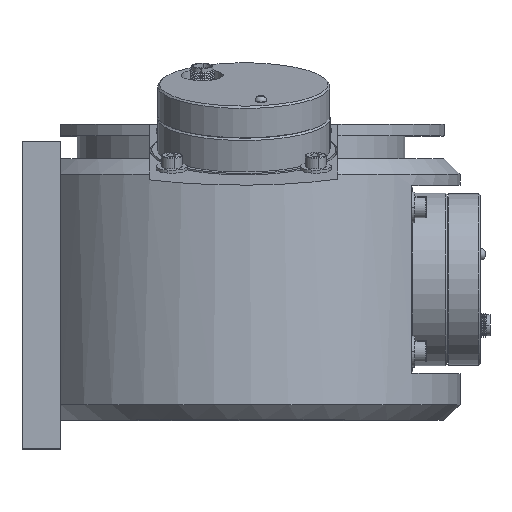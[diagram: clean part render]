
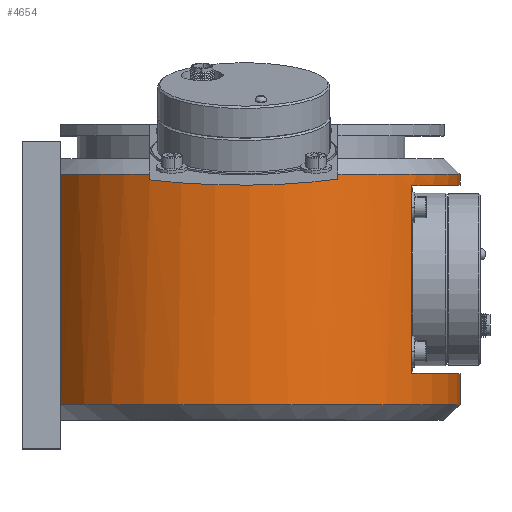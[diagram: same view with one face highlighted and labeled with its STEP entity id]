
A CAD part, top view. The second image highlights one B-rep face of the part: STEP entity #4654.
In plain terms, the highlighted cylindrical face has radius 57 mm (diameter 114 mm), a partial arc.
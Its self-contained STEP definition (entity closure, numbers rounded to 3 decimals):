
#4654 = ADVANCED_FACE ( 'NONE', ( #13632, #13634 ), #13633, .T. ) ;
#4766 = EDGE_CURVE ( 'NONE', #4984, #4985, #11962, .T. ) ;
#4795 = EDGE_CURVE ( 'NONE', #4978, #5001, #14518, .T. ) ;
#4798 = EDGE_CURVE ( 'NONE', #5004, #4985, #14550, .T. ) ;
#4978 = VERTEX_POINT ( 'NONE', #14806 ) ;
#4984 = VERTEX_POINT ( 'NONE', #14812 ) ;
#4985 = VERTEX_POINT ( 'NONE', #14813 ) ;
#5001 = VERTEX_POINT ( 'NONE', #14829 ) ;
#5003 = VERTEX_POINT ( 'NONE', #14831 ) ;
#5004 = VERTEX_POINT ( 'NONE', #14832 ) ;
#5020 = VERTEX_POINT ( 'NONE', #14848 ) ;
#5022 = VERTEX_POINT ( 'NONE', #14850 ) ;
#5025 = VERTEX_POINT ( 'NONE', #14853 ) ;
#5026 = VERTEX_POINT ( 'NONE', #14854 ) ;
#5027 = VERTEX_POINT ( 'NONE', #14855 ) ;
#5028 = VERTEX_POINT ( 'NONE', #14856 ) ;
#5031 = VERTEX_POINT ( 'NONE', #14859 ) ;
#6420 = ORIENTED_EDGE ( 'NONE', *, *, #6887, .F. ) ;
#6421 = ORIENTED_EDGE ( 'NONE', *, *, #6888, .T. ) ;
#6422 = ORIENTED_EDGE ( 'NONE', *, *, #6889, .T. ) ;
#6423 = ORIENTED_EDGE ( 'NONE', *, *, #6890, .F. ) ;
#6424 = ORIENTED_EDGE ( 'NONE', *, *, #6891, .F. ) ;
#6425 = ORIENTED_EDGE ( 'NONE', *, *, #6886, .F. ) ;
#6426 = ORIENTED_EDGE ( 'NONE', *, *, #4795, .T. ) ;
#6427 = ORIENTED_EDGE ( 'NONE', *, *, #6892, .T. ) ;
#6428 = ORIENTED_EDGE ( 'NONE', *, *, #4798, .T. ) ;
#6429 = ORIENTED_EDGE ( 'NONE', *, *, #4766, .F. ) ;
#6430 = ORIENTED_EDGE ( 'NONE', *, *, #6893, .F. ) ;
#6431 = ORIENTED_EDGE ( 'NONE', *, *, #6894, .T. ) ;
#6432 = ORIENTED_EDGE ( 'NONE', *, *, #6895, .F. ) ;
#6886 = EDGE_CURVE ( 'NONE', #4978, #5003, #12061, .T. ) ;
#6887 = EDGE_CURVE ( 'NONE', #5020, #5025, #15029, .T. ) ;
#6888 = EDGE_CURVE ( 'NONE', #5020, #5027, #12056, .T. ) ;
#6889 = EDGE_CURVE ( 'NONE', #5027, #5028, #15047, .T. ) ;
#6890 = EDGE_CURVE ( 'NONE', #5025, #5028, #12070, .T. ) ;
#6891 = EDGE_CURVE ( 'NONE', #5003, #5022, #15052, .T. ) ;
#6892 = EDGE_CURVE ( 'NONE', #5001, #5004, #12073, .T. ) ;
#6893 = EDGE_CURVE ( 'NONE', #5026, #4984, #12074, .T. ) ;
#6894 = EDGE_CURVE ( 'NONE', #5026, #5031, #15062, .T. ) ;
#6895 = EDGE_CURVE ( 'NONE', #5022, #5031, #14211, .T. ) ;
#8005 = EDGE_LOOP ( 'NONE', ( #6424, #6425, #6426, #6427, #6428, #6429, #6430, #6431, #6432 ) ) ;
#8010 = EDGE_LOOP ( 'NONE', ( #6420, #6421, #6422, #6423 ) ) ;
#11716 = AXIS2_PLACEMENT_3D ( 'NONE', #13635, #13631, #13630 ) ;
#11962 = CIRCLE ( 'NONE', #11966, 57. ) ;
#11966 = AXIS2_PLACEMENT_3D ( 'NONE', #14374, #14375, #14376 ) ;
#12001 = VECTOR ( 'NONE', #14543, 1000. ) ;
#12005 = VECTOR ( 'NONE', #14552, 1000. ) ;
#12056 = CIRCLE ( 'NONE', #12069, 57. ) ;
#12060 = AXIS2_PLACEMENT_3D ( 'NONE', #15041, #15042, #15043 ) ;
#12061 = CIRCLE ( 'NONE', #12060, 57. ) ;
#12063 = VECTOR ( 'NONE', #15056, 1000. ) ;
#12064 = VECTOR ( 'NONE', #15051, 1000. ) ;
#12066 = VECTOR ( 'NONE', #15045, 1000. ) ;
#12069 = AXIS2_PLACEMENT_3D ( 'NONE', #15048, #15049, #15050 ) ;
#12070 = CIRCLE ( 'NONE', #12072, 57. ) ;
#12071 = VECTOR ( 'NONE', #15066, 1000. ) ;
#12072 = AXIS2_PLACEMENT_3D ( 'NONE', #15053, #15054, #15055 ) ;
#12073 = CIRCLE ( 'NONE', #12075, 57. ) ;
#12074 = CIRCLE ( 'NONE', #12077, 57. ) ;
#12075 = AXIS2_PLACEMENT_3D ( 'NONE', #15058, #15059, #15060 ) ;
#12077 = AXIS2_PLACEMENT_3D ( 'NONE', #15063, #15064, #15065 ) ;
#13630 = DIRECTION ( 'NONE',  ( -1., 0., 0. ) ) ;
#13631 = DIRECTION ( 'NONE',  ( 0., 1., 0. ) ) ;
#13632 = FACE_BOUND ( 'NONE', #8010, .T. ) ;
#13633 = CYLINDRICAL_SURFACE ( 'NONE', #11716, 57. ) ;
#13634 = FACE_OUTER_BOUND ( 'NONE', #8005, .T. ) ;
#13635 = CARTESIAN_POINT ( 'NONE',  ( 0., 77., 0. ) ) ;
#14211 =( BOUNDED_CURVE ( )  B_SPLINE_CURVE ( 3, ( #15061, #15068, #15069, #15070 ),
 .UNSPECIFIED., .F., .T. ) 
 B_SPLINE_CURVE_WITH_KNOTS ( ( 4, 4 ),
 ( 2.711, 3.6 ),
 .UNSPECIFIED. ) 
 CURVE ( )  GEOMETRIC_REPRESENTATION_ITEM ( )  RATIONAL_B_SPLINE_CURVE ( ( 1., 0.935, 0.935, 1. ) ) 
 REPRESENTATION_ITEM ( '' )  );
#14374 = CARTESIAN_POINT ( 'NONE',  ( 0., 64., 0. ) ) ;
#14375 = DIRECTION ( 'NONE',  ( 0., 1., 0. ) ) ;
#14376 = DIRECTION ( 'NONE',  ( -1., 0., 0. ) ) ;
#14518 = LINE ( 'NONE', #14533, #12001 ) ;
#14533 = CARTESIAN_POINT ( 'NONE',  ( -47., 77., 32.249 ) ) ;
#14543 = DIRECTION ( 'NONE',  ( 0., -1., 0. ) ) ;
#14550 = LINE ( 'NONE', #14551, #12005 ) ;
#14551 = CARTESIAN_POINT ( 'NONE',  ( -47., 77., -32.249 ) ) ;
#14552 = DIRECTION ( 'NONE',  ( 0., 1., 0. ) ) ;
#14806 = CARTESIAN_POINT ( 'NONE',  ( -47., 64., 32.249 ) ) ;
#14812 = CARTESIAN_POINT ( 'NONE',  ( 57., 64., 0. ) ) ;
#14813 = CARTESIAN_POINT ( 'NONE',  ( -47., 64., -32.249 ) ) ;
#14829 = CARTESIAN_POINT ( 'NONE',  ( -47., 4., 32.249 ) ) ;
#14831 = CARTESIAN_POINT ( 'NONE',  ( -23.79, 64., 51.798 ) ) ;
#14832 = CARTESIAN_POINT ( 'NONE',  ( -47., 4., -32.249 ) ) ;
#14848 = CARTESIAN_POINT ( 'NONE',  ( 44.45, 61.14, 35.682 ) ) ;
#14850 = CARTESIAN_POINT ( 'NONE',  ( -23.79, 62.494, 51.798 ) ) ;
#14853 = CARTESIAN_POINT ( 'NONE',  ( 44.45, 12.14, 35.682 ) ) ;
#14854 = CARTESIAN_POINT ( 'NONE',  ( 25.21, 64., 51.122 ) ) ;
#14855 = CARTESIAN_POINT ( 'NONE',  ( 44.45, 61.14, -35.682 ) ) ;
#14856 = CARTESIAN_POINT ( 'NONE',  ( 44.45, 12.14, -35.682 ) ) ;
#14859 = CARTESIAN_POINT ( 'NONE',  ( 25.21, 62.675, 51.122 ) ) ;
#15029 = LINE ( 'NONE', #15038, #12066 ) ;
#15038 = CARTESIAN_POINT ( 'NONE',  ( 44.45, 61.14, 35.682 ) ) ;
#15041 = CARTESIAN_POINT ( 'NONE',  ( 0., 64., 0. ) ) ;
#15042 = DIRECTION ( 'NONE',  ( 0., 1., 0. ) ) ;
#15043 = DIRECTION ( 'NONE',  ( -1., 0., 0. ) ) ;
#15044 = CARTESIAN_POINT ( 'NONE',  ( 44.45, 61.14, -35.682 ) ) ;
#15045 = DIRECTION ( 'NONE',  ( 0., -1., 0. ) ) ;
#15046 = CARTESIAN_POINT ( 'NONE',  ( -23.79, 77., 51.798 ) ) ;
#15047 = LINE ( 'NONE', #15044, #12064 ) ;
#15048 = CARTESIAN_POINT ( 'NONE',  ( 0., 61.14, 0. ) ) ;
#15049 = DIRECTION ( 'NONE',  ( 0., 1., 0. ) ) ;
#15050 = DIRECTION ( 'NONE',  ( 0., 0., 1. ) ) ;
#15051 = DIRECTION ( 'NONE',  ( 0., -1., 0. ) ) ;
#15052 = LINE ( 'NONE', #15046, #12063 ) ;
#15053 = CARTESIAN_POINT ( 'NONE',  ( 0., 12.14, 0. ) ) ;
#15054 = DIRECTION ( 'NONE',  ( 0., 1., 0. ) ) ;
#15055 = DIRECTION ( 'NONE',  ( 0., 0., 1. ) ) ;
#15056 = DIRECTION ( 'NONE',  ( 0., -1., 0. ) ) ;
#15057 = CARTESIAN_POINT ( 'NONE',  ( 25.21, 77., 51.122 ) ) ;
#15058 = CARTESIAN_POINT ( 'NONE',  ( 0., 4., 0. ) ) ;
#15059 = DIRECTION ( 'NONE',  ( 0., 1., 0. ) ) ;
#15060 = DIRECTION ( 'NONE',  ( -1., 0., 0. ) ) ;
#15061 = CARTESIAN_POINT ( 'NONE',  ( -23.79, 62.494, 51.798 ) ) ;
#15062 = LINE ( 'NONE', #15057, #12071 ) ;
#15063 = CARTESIAN_POINT ( 'NONE',  ( 0., 64., 0. ) ) ;
#15064 = DIRECTION ( 'NONE',  ( 0., 1., 0. ) ) ;
#15065 = DIRECTION ( 'NONE',  ( -1., 0., 0. ) ) ;
#15066 = DIRECTION ( 'NONE',  ( 0., -1., 0. ) ) ;
#15068 = CARTESIAN_POINT ( 'NONE',  ( -7.918, 60.54, 59.088 ) ) ;
#15069 = CARTESIAN_POINT ( 'NONE',  ( 9.546, 60.605, 58.847 ) ) ;
#15070 = CARTESIAN_POINT ( 'NONE',  ( 25.21, 62.675, 51.122 ) ) ;
